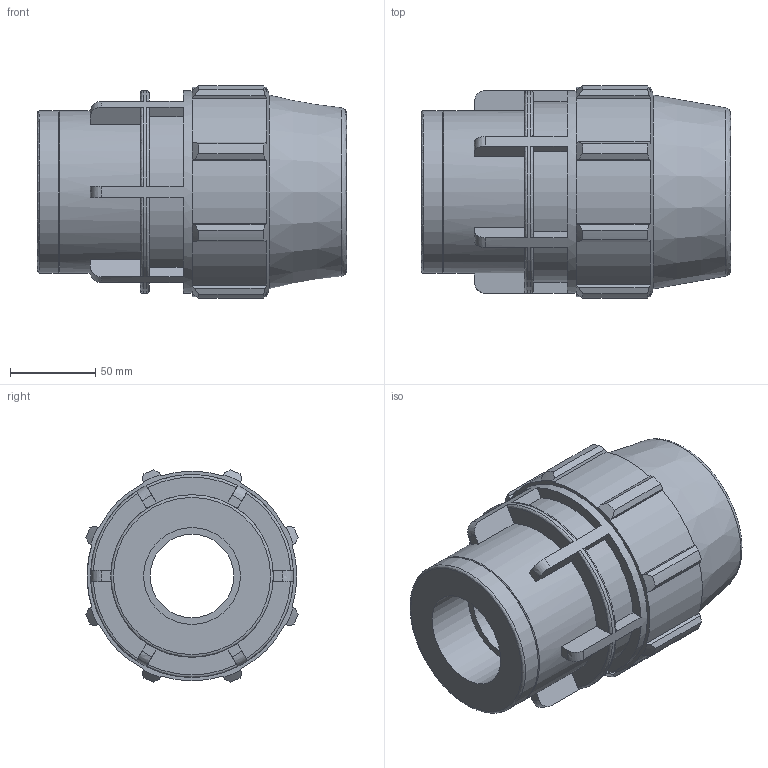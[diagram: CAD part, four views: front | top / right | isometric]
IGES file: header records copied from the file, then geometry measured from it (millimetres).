
Global section: file name: 870300075020_180300075020_840306075020.ipt; native system: Autodesk Inventor 2015; preprocessor: unknown; author: KIM; date: 20180325.201155; units: millimetre
Bounding box: 181 x 124.2 x 124.2 mm (x, y, z)
Volume: 956582.2 mm3; surface area: 130512 mm2
Topology: 1 solids, 1 shells, 148 faces, 413 edges, 277 vertices
Faces by surface type: plane 86, revolution 25, cylinder 25, cone 12
Full cylindrical faces by diameter (mm): 95.04 x2, 118.8 x1
